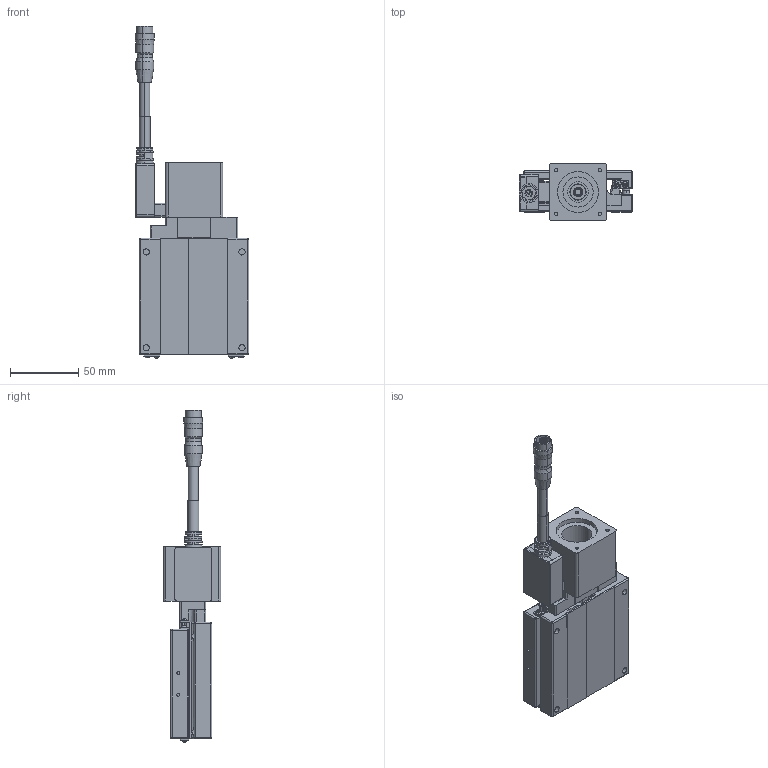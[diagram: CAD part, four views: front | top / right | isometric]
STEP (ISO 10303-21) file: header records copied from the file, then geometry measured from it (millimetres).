
FILE_DESCRIPTION (( 'STEP AP203' ), '1' );
FILE_NAME ('CXS8020(伺服P無馬達).STEP', '2023-12-25T08:02:21', ( '' ), ( '' ), 'SwSTEP 2.0', 'SolidWorks 2019', '' );
FILE_SCHEMA (( 'CONFIG_CONTROL_DESIGN' ));
Length unit declared in the file: millimetre
Products named in the file (5): HR10A-10J-12P; CXS8020-21-1^CXS8020(伺服P無馬達)_defeature_GMT; Group1^CXS8020(伺服P無馬達)_defeature_GMT; CXS8020(伺服P無馬達); Group2^CXS8020(伺服P無馬達)_defeature_GMT
Assembly tree (4 placements, depth 2):
  CXS8020(伺服P無馬達)
    Group1^CXS8020(伺服P無馬達)_defeature_GMT
    Group2^CXS8020(伺服P無馬達)_defeature_GMT
    CXS8020-21-1^CXS8020(伺服P無馬達)_defeature_GMT
    HR10A-10J-12P
Bounding box: 83 x 42 x 242.37 mm (x, y, z)
Volume: 215916.6 mm3; surface area: 80091.7 mm2
Topology: 8 solids, 11 shells, 2056 faces, 5148 edges, 3213 vertices
Faces by surface type: plane 1140, cylinder 487, cone 178, sphere 150, bspline 69, torus 32
Entity records: 64501 total; most frequent: CARTESIAN_POINT 14586, DIRECTION 10471, ORIENTED_EDGE 10180, EDGE_CURVE 5090, AXIS2_PLACEMENT_3D 3704, VERTEX_POINT 3213, VECTOR 3063, LINE 3063
